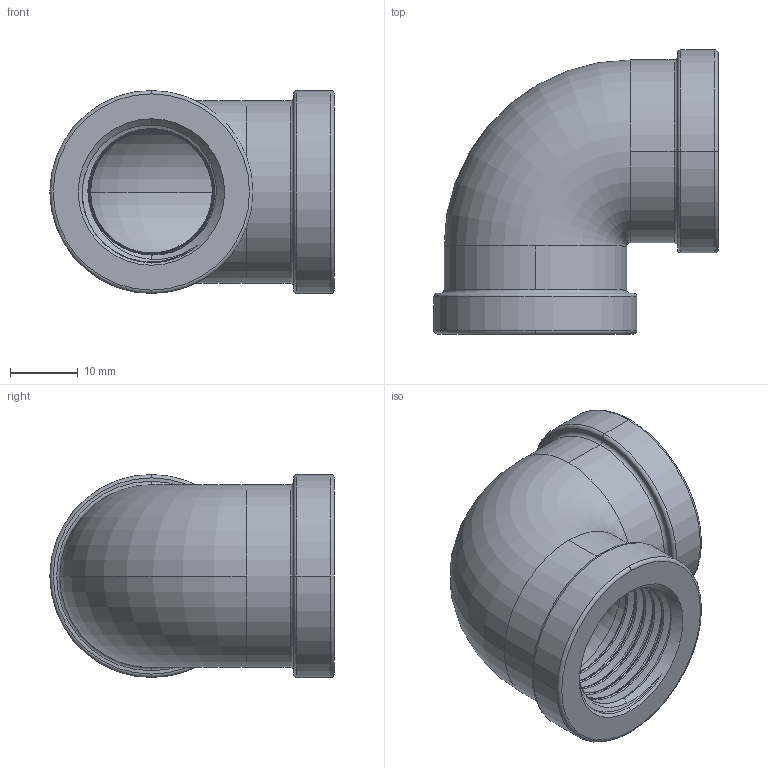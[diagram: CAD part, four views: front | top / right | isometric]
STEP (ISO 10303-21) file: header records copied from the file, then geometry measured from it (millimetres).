
FILE_DESCRIPTION (( 'STEP AP214' ), '1' );
FILE_NAME ('thread-Elbow-band_15A.STEP', '2022-02-12T03:54:34', ( 'ASIS User' ), ( 'ASIS User' ), 'SwSTEP 2.0', 'SolidWorks 2021', '' );
FILE_SCHEMA (( 'AUTOMOTIVE_DESIGN' ));
Length unit declared in the file: millimetre
Products named in the file (1): thread-Elbow-band_15A
Bounding box: 42 x 42 x 30 mm (x, y, z)
Volume: 12605.9 mm3; surface area: 9260.4 mm2
Topology: 1 solids, 1 shells, 68 faces, 263 edges, 201 vertices
Faces by surface type: cone 22, torus 16, cylinder 12, bspline 12, plane 6
Entity records: 10057 total; most frequent: CARTESIAN_POINT 8071, ORIENTED_EDGE 518, DIRECTION 286, EDGE_CURVE 259, VERTEX_POINT 199, B_SPLINE_CURVE_WITH_KNOTS 159, AXIS2_PLACEMENT_3D 129, CIRCLE 72
